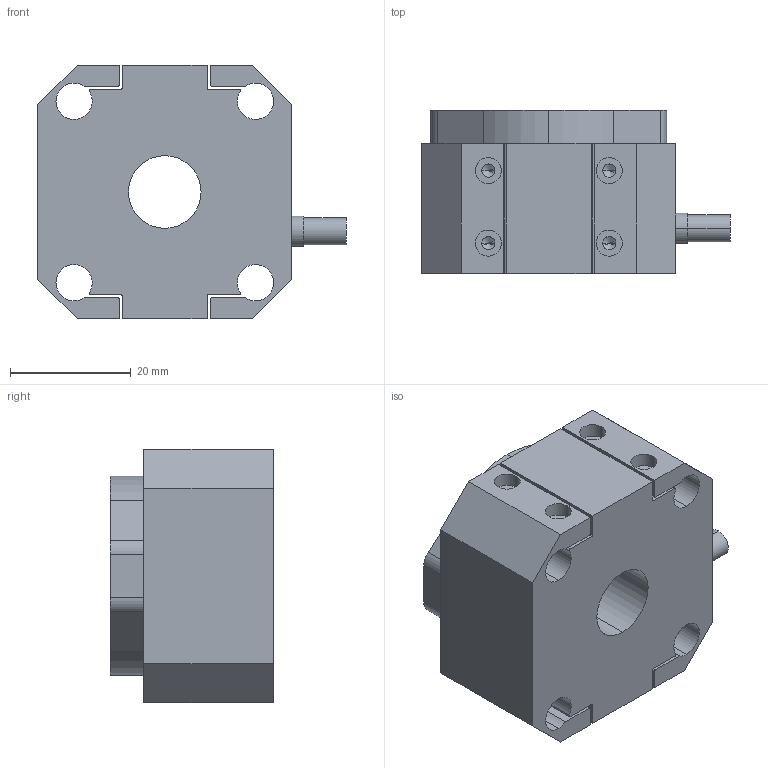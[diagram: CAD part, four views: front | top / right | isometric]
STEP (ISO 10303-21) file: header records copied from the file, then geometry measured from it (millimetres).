
FILE_DESCRIPTION (( 'STEP AP203' ), '1' );
FILE_NAME ('P70.Z8S-B1外形三维-21.09.06.STEP', '2022-06-13T05:12:18', ( 'Windows 用户' ), ( '微软中国' ), 'SwSTEP 2.0', 'SolidWorks 2016', '' );
FILE_SCHEMA (( 'CONFIG_CONTROL_DESIGN' ));
Length unit declared in the file: millimetre
Products named in the file (1): P70.Z8S-B1外形三维-21.09.06
Bounding box: 51 x 27 x 42 mm (x, y, z)
Volume: 33454.2 mm3; surface area: 11814 mm2
Topology: 1 solids, 1 shells, 576 faces, 1541 edges, 1014 vertices
Faces by surface type: plane 286, bspline 185, cylinder 89, cone 16
Entity records: 21418 total; most frequent: CARTESIAN_POINT 8093, ORIENTED_EDGE 3050, DIRECTION 2117, EDGE_CURVE 1525, VERTEX_POINT 1014, VECTOR 977, LINE 977, EDGE_LOOP 657
